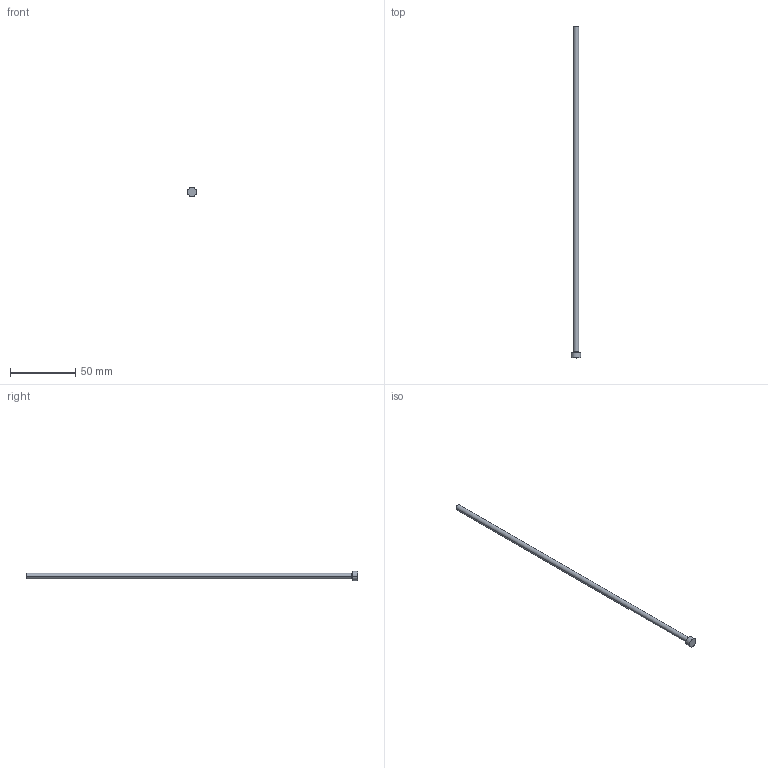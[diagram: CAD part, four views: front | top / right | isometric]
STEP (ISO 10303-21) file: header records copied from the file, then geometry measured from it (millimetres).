
FILE_DESCRIPTION (( 'STEP AP203' ), '1' );
FILE_NAME ('EPL161L10.step', '2020-08-23T03:08:42', ( 'Microsoft Corporation' ), ( 'MS' ), 'SwSTEP 2.0', 'SolidWorks 2018', '' );
FILE_SCHEMA (( 'CONFIG_CONTROL_DESIGN' ));
Length unit declared in the file: inch
Products named in the file (1): EPL161L10
Bounding box: 7.11 x 254 x 7.11 mm (x, y, z)
Volume: 3451.4 mm3; surface area: 3380.3 mm2
Topology: 1 solids, 1 shells, 9 faces, 16 edges, 10 vertices
Faces by surface type: cylinder 4, plane 3, torus 2
Entity records: 305 total; most frequent: DIRECTION 48, CARTESIAN_POINT 36, ORIENTED_EDGE 32, AXIS2_PLACEMENT_3D 22, EDGE_CURVE 16, CIRCLE 12, EDGE_LOOP 10, VERTEX_POINT 10
